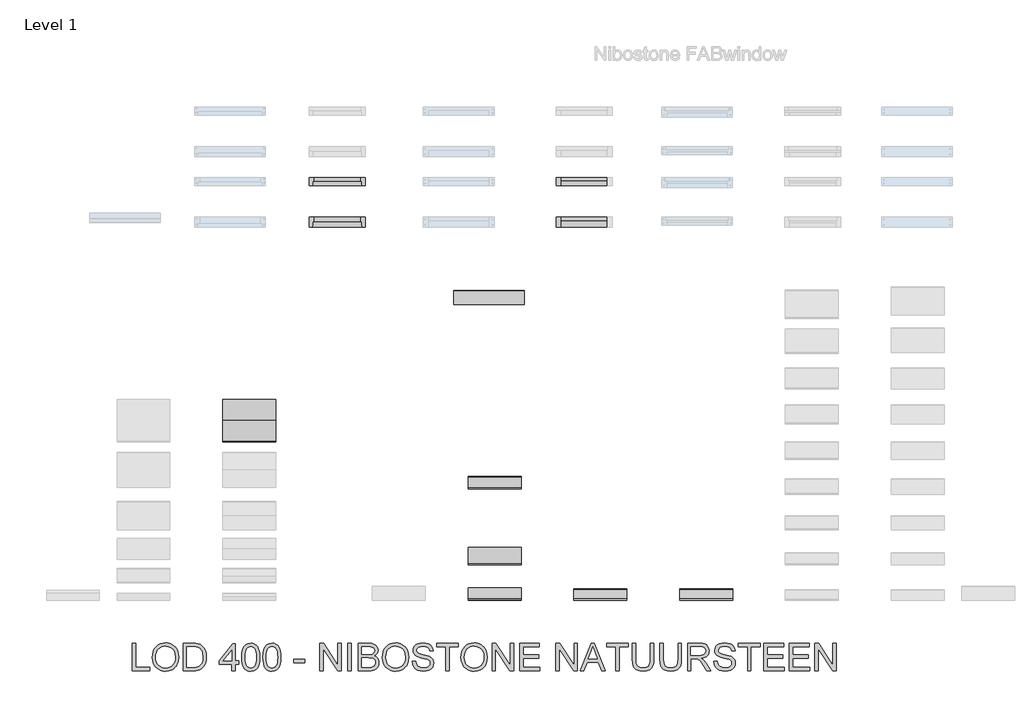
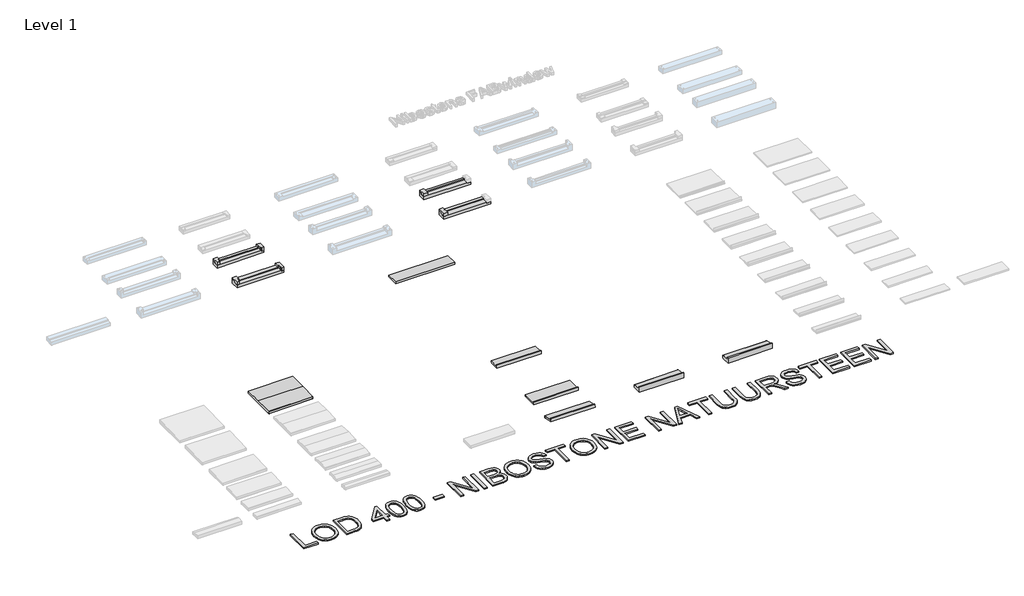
# One storey, part 2 of 4: 18 proxies.
"""IFC4 building model written with IfcOpenShell, lengths in millimetres."""

from ifc_helpers import new_model, si_unit, origin, origin_with_axes, place, context, project, spatial, polyline, outline, extrude, faceted_brep, transform, mapped, element, save
from components import proxy_160x90_mm_a9168e1c, proxy_175_mm_b3279f06, proxy_250_mm_d05ddaf7, proxy_600_mm_a40602a3, std_403fbab1, std_eb05143a, std_f690763c

model = new_model("IFC4")

# Units and contexts
model_context = context("Model", 3, world=origin())
ifc_project = project(units=[si_unit("LENGTHUNIT", "METRE", prefix="MILLI")], contexts=[model_context])

# Site, building, storey
site = spatial("IfcSite", under=ifc_project)
building = spatial("IfcBuilding", under=site)
storey = spatial("IfcBuildingStorey", under=building, Name="Level 1", Elevation=0.0)

# Proxies
placement = place(None, origin())
proxy_160x90_mm_shape = proxy_160x90_mm_a9168e1c(model_context)
element("IfcBuildingElementProxy", 1, Name="400_35_NS_raamdorpel_160x90 : 160x90 mm", ObjectType="400_35_NS_raamdorpel_160x90 : 160x90 mm", at=placement, inside=storey, context=model_context, shape_type="MappedRepresentation", body=[
    mapped(proxy_160x90_mm_shape, transform((13878.8137943, 10001.8708366, 0.0), x_axis=(1.0, 0.0, 0.0), y_axis=(0.0, 1.0, 0.0), z_axis=(0.0, 0.0, 1.0))),
])
proxy_175_mm_shape = proxy_175_mm_b3279f06(model_context)
element("IfcBuildingElementProxy", 2, Name="400_35_NS_raamdorpel_natuursteen_klik : 175 mm", ObjectType="400_35_NS_raamdorpel_natuursteen_klik : 175 mm", at=placement, inside=storey, context=model_context, shape_type="MappedRepresentation", body=[
    mapped(proxy_175_mm_shape, transform((12378.8137943, 10001.8708366, 0.0), x_axis=(1.0, 0.0, 0.0), y_axis=(0.0, 1.0, 0.0), z_axis=(0.0, 0.0, 1.0))),
])
proxy_250_mm_shape = proxy_250_mm_d05ddaf7(model_context)
element("IfcBuildingElementProxy", 3, Name="400_35_NS_raamdorpel_natuursteen_klik : 250 mm", ObjectType="400_35_NS_raamdorpel_natuursteen_klik : 250 mm", at=placement, inside=storey, context=model_context, shape_type="MappedRepresentation", body=[
    mapped(proxy_250_mm_shape, transform((12378.8137943, 10501.8708366, 0.0), x_axis=(1.0, 0.0, 0.0), y_axis=(0.0, 1.0, 0.0), z_axis=(0.0, 0.0, 1.0))),
])
element("IfcBuildingElementProxy", 4, Name="400", ObjectType="400", at=placement, inside=storey, context=model_context, shape_type="SweptSolid", body=[
    extrude(outline(polyline([(7242.8484848, 9000.0), (7242.8484848, 9391.7575758), (7291.8181818, 9391.7575758), (7291.8181818, 9048.969697), (7487.6969697, 9048.969697), (7487.6969697, 9000.0), (7242.8484848, 9000.0)])), origin_with_axes(), (0.0, 0.0, 1.0), 20.0),
    extrude(outline(polyline([(7524.4242424, 9190.7140152), (7527.6880919, 9236.6649503), (7537.4796402, 9277.3435133), (7553.7988873, 9312.7497041), (7576.6458333, 9342.8835227), (7604.6515743, 9366.9439512), (7636.4472064, 9384.1299716), (7672.0327296, 9394.4415838), (7711.4081439, 9397.8787879), (7737.764027, 9396.2647964), (7762.7928504, 9391.422822), (7786.4946141, 9383.3528646), (7808.8693182, 9372.0549242), (7829.2892992, 9357.8697325), (7847.1268939, 9341.1380208), (7862.3821023, 9321.8597893), (7875.0549242, 9300.0350379), (7885.0138494, 9276.1599195), (7892.1273674, 9250.7305871), (7897.8181818, 9195.2092803), (7891.8284801, 9138.946733), (7884.341353, 9113.1647135), (7873.859375, 9088.9488636), (7860.6306226, 9066.9388021), (7844.9031723, 9047.7741477), (7826.6770241, 9031.4549006), (7805.952178, 9017.9810606), (7760.2702415, 8999.9043561), (7711.1212121, 8993.8787879), (7684.3050426, 8995.5435902), (7658.9474432, 9000.5379972), (7635.0484138, 9008.8620088), (7612.6079545, 9020.515625), (7592.2118845, 9035.047526), (7574.4460227, 9052.006392), (7559.3103693, 9071.392223), (7546.8049242, 9093.2050189), (7530.0194129, 9140.6085464), (7524.4242424, 9190.7140152)]), holes=[polyline([(7573.3939394, 9190.2357955), (7575.8418265, 9157.7706558), (7583.1854877, 9128.9519413), (7595.4249231, 9103.779652), (7612.5601326, 9082.2537879), (7633.3895893, 9065.0139678), (7656.7117661, 9052.6998106), (7682.5266631, 9045.3113163), (7710.8342803, 9042.8484848), (7739.6260949, 9045.3352273), (7765.745857, 9052.7954545), (7789.1935665, 9065.2291667), (7809.9692235, 9082.6363636), (7826.9789003, 9104.6165365), (7839.1286695, 9130.7691761), (7846.418531, 9161.0942827), (7848.8484848, 9195.5918561), (7844.6879735, 9238.9424716), (7832.2064394, 9276.4109848), (7811.7266809, 9307.0529119), (7783.5714962, 9329.9237689), (7749.6059422, 9344.1627604), (7711.6950758, 9348.9090909), (7684.3707978, 9346.622603), (7659.0191761, 9339.7631392), (7635.6402107, 9328.3306996), (7614.2339015, 9312.3252841), (7596.3664181, 9290.9757635), (7583.6039299, 9263.5110085), (7575.946437, 9229.9310192), (7573.3939394, 9190.2357955)])]), origin_with_axes(), (0.0, 0.0, 1.0), 20.0),
    extrude(outline(polyline([(7965.1515152, 9000.0), (7965.1515152, 9391.7575758), (8100.2964015, 9391.7575758), (8140.6820549, 9390.3468277), (8170.2121212, 9386.1145833), (8201.4398674, 9375.2350852), (8227.7897727, 9358.0909091), (8254.8809186, 9328.25), (8274.1770833, 9291.1401515), (8285.726089, 9247.4786932), (8289.5757576, 9197.9829545), (8286.9694602, 9155.9354877), (8279.1505682, 9118.9332386), (8267.2428977, 9087.4305161), (8252.3702652, 9061.8816288), (8235.25, 9041.7127131), (8216.5994318, 9026.3499053), (8195.1871449, 9014.956321), (8169.7817235, 9006.6950758), (8140.3353456, 9001.6737689), (8106.8001894, 9000.0), (7965.1515152, 9000.0)]), holes=[polyline([(8014.1212121, 9048.969697), (8100.7746212, 9048.969697), (8136.6171875, 9050.7391098), (8163.8039773, 9056.0473485), (8184.3196023, 9064.5835701), (8200.1486742, 9076.0369318), (8217.16134, 9097.2340199), (8229.9417614, 9124.671875), (8237.9399858, 9158.4700521), (8240.6060606, 9198.7481061), (8235.3815104, 9252.1174242), (8228.8508227, 9273.5655777), (8219.7078598, 9291.5227273), (8196.550071, 9318.5899621), (8168.8731061, 9334.9450758), (8140.7059659, 9340.827178), (8099.4356061, 9342.7878788), (8014.1212121, 9342.7878788), (8014.1212121, 9048.969697)])]), origin_with_axes(), (0.0, 0.0, 1.0), 20.0),
    extrude(outline(polyline([(8650.7272727, 9000.0), (8650.7272727, 9091.8181818), (8473.2121212, 9091.8181818), (8473.2121212, 9140.7878788), (8662.969697, 9385.6363636), (8699.6969697, 9385.6363636), (8699.6969697, 9140.7878788), (8748.6666667, 9140.7878788), (8748.6666667, 9091.8181818), (8699.6969697, 9091.8181818), (8699.6969697, 9000.0), (8650.7272727, 9000.0)]), holes=[polyline([(8650.7272727, 9140.7878788), (8650.7272727, 9292.0965909), (8533.467803, 9140.7878788), (8650.7272727, 9140.7878788)])]), origin_with_axes(), (0.0, 0.0, 1.0), 20.0),
    extrude(outline(polyline([(8791.5151515, 9192.7225379), (8795.1137547, 9255.4290956), (8805.9095644, 9305.4389205), (8823.7949811, 9343.5171638), (8835.3559422, 9358.3688743), (8848.6624053, 9370.4289773), (8863.7592034, 9379.7602391), (8880.6911695, 9386.4254261), (8920.0606061, 9391.7575758), (8950.2362689, 9388.6013258), (8977.2556818, 9379.1325758), (8999.8515625, 9363.721946), (9016.7566288, 9342.7400568), (9029.5250947, 9316.3662405), (9039.7111742, 9284.7798295), (9046.382339, 9244.6691525), (9048.6060606, 9192.7225379), (9045.0433239, 9130.3746449), (9034.3551136, 9080.484375), (9016.5772964, 9042.3702652), (9005.0432351, 9027.4737216), (8991.7457386, 9015.3508523), (8976.6310073, 9005.9568241), (8959.6452415, 8999.246804), (8920.0606061, 8993.8787879), (8893.0890152, 8996.2101089), (8869.1780303, 9003.204072), (8848.3276515, 9014.8606771), (8830.5378788, 9031.1799242), (8813.4654356, 9060.6801018), (8801.2708333, 9097.4372633), (8793.954072, 9141.4514086), (8791.5151515, 9192.7225379)]), holes=[polyline([(8840.4848485, 9192.8181818), (8841.9195076, 9150.2476622), (8846.2234848, 9115.7889441), (8853.3967803, 9089.4420277), (8863.4393939, 9071.2069129), (8875.5861742, 9058.8001006), (8889.0719697, 9049.9380919), (8903.8967803, 9044.6208866), (8920.0606061, 9042.8484848), (8936.2244318, 9044.6268643), (8951.0492424, 9049.9620028), (8964.5350379, 9058.8539003), (8976.6818182, 9071.3025568), (8986.7244318, 9089.5675604), (8993.8977273, 9115.9084991), (8998.2017045, 9150.3253729), (8999.6363636, 9192.8181818), (8998.2495265, 9234.2618963), (8994.0890152, 9268.1138731), (8987.1548295, 9294.3741122), (8977.4469697, 9313.0426136), (8965.5034328, 9326.0561671), (8951.8622159, 9335.3515625), (8936.5233191, 9340.9287997), (8919.4867424, 9342.7878788), (8903.4066051, 9341.1499763), (8888.8328598, 9336.2362689), (8875.7655066, 9328.0467566), (8864.2045455, 9316.5814394), (8853.827178, 9296.2571023), (8846.4147727, 9268.8551136), (8841.9673295, 9234.3754735), (8840.4848485, 9192.8181818)])]), origin_with_axes(), (0.0, 0.0, 1.0), 20.0),
    extrude(outline(polyline([(9091.4545455, 9192.7225379), (9095.0531487, 9255.4290956), (9105.8489583, 9305.4389205), (9123.734375, 9343.5171638), (9135.2953362, 9358.3688743), (9148.6017992, 9370.4289773), (9163.6985973, 9379.7602391), (9180.6305634, 9386.4254261), (9220.0, 9391.7575758), (9250.1756629, 9388.6013258), (9277.1950758, 9379.1325758), (9299.7909564, 9363.721946), (9316.6960227, 9342.7400568), (9329.4644886, 9316.3662405), (9339.6505682, 9284.7798295), (9346.321733, 9244.6691525), (9348.5454545, 9192.7225379), (9344.9827178, 9130.3746449), (9334.2945076, 9080.484375), (9316.5166903, 9042.3702652), (9304.982629, 9027.4737216), (9291.6851326, 9015.3508523), (9276.5704013, 9005.9568241), (9259.5846354, 8999.246804), (9220.0, 8993.8787879), (9193.0284091, 8996.2101089), (9169.1174242, 9003.204072), (9148.2670455, 9014.8606771), (9130.4772727, 9031.1799242), (9113.4048295, 9060.6801018), (9101.2102273, 9097.4372633), (9093.8934659, 9141.4514086), (9091.4545455, 9192.7225379)]), holes=[polyline([(9140.4242424, 9192.8181818), (9141.8589015, 9150.2476622), (9146.1628788, 9115.7889441), (9153.3361742, 9089.4420277), (9163.3787879, 9071.2069129), (9175.5255682, 9058.8001006), (9189.0113636, 9049.9380919), (9203.8361742, 9044.6208866), (9220.0, 9042.8484848), (9236.1638258, 9044.6268643), (9250.9886364, 9049.9620028), (9264.4744318, 9058.8539003), (9276.6212121, 9071.3025568), (9286.6638258, 9089.5675604), (9293.8371212, 9115.9084991), (9298.1410985, 9150.3253729), (9299.5757576, 9192.8181818), (9298.1889205, 9234.2618963), (9294.0284091, 9268.1138731), (9287.0942235, 9294.3741122), (9277.3863636, 9313.0426136), (9265.4428267, 9326.0561671), (9251.8016098, 9335.3515625), (9236.4627131, 9340.9287997), (9219.4261364, 9342.7878788), (9203.3459991, 9341.1499763), (9188.7722538, 9336.2362689), (9175.7049006, 9328.0467566), (9164.1439394, 9316.5814394), (9153.766572, 9296.2571023), (9146.3541667, 9268.8551136), (9141.9067235, 9234.3754735), (9140.4242424, 9192.8181818)])]), origin_with_axes(), (0.0, 0.0, 1.0), 20.0),
    extrude(outline(polyline([(9532.1818182, 9116.3030303), (9532.1818182, 9165.2727273), (9685.2121212, 9165.2727273), (9685.2121212, 9116.3030303), (9532.1818182, 9116.3030303)])), origin_with_axes(), (0.0, 0.0, 1.0), 20.0),
    extrude(outline(polyline([(9899.4545455, 9000.0), (9899.4545455, 9391.7575758), (9951.8674242, 9391.7575758), (10156.5454545, 9081.3929924), (10156.5454545, 9391.7575758), (10205.5151515, 9391.7575758), (10205.5151515, 9000.0), (10153.1022727, 9000.0), (9948.4242424, 9310.4602273), (9948.4242424, 9000.0), (9899.4545455, 9000.0)])), origin_with_axes(), (0.0, 0.0, 1.0), 20.0),
    extrude(outline(polyline([(10297.3333333, 9000.0), (10297.3333333, 9391.7575758), (10346.3030303, 9391.7575758), (10346.3030303, 9000.0), (10297.3333333, 9000.0)])), origin_with_axes(), (0.0, 0.0, 1.0), 20.0),
    extrude(outline(polyline([(10444.2424242, 9000.0), (10444.2424242, 9391.7575758), (10593.7339015, 9391.7575758), (10634.84884, 9388.8763021), (10666.9493371, 9380.2324811), (10691.5537405, 9365.6109138), (10710.1803977, 9344.7964015), (10721.9087358, 9320.311553), (10725.8181818, 9294.6789773), (10722.5304214, 9271.0907907), (10712.6671402, 9248.9133523), (10696.1566051, 9229.5095881), (10672.9270833, 9214.2424242), (10700.6757813, 9199.7523674), (10721.1794508, 9177.7064394), (10733.8403172, 9149.5632102), (10738.0606061, 9116.78125), (10735.1793324, 9089.4629498), (10726.5355114, 9064.1292614), (10713.635535, 9042.585464), (10697.9857955, 9026.6368371), (10678.8211411, 9015.0878314), (10655.3764205, 9006.7428977), (10626.886482, 9001.6857244), (10592.5861742, 9000.0), (10444.2424242, 9000.0)]), holes=[polyline([(10493.2121212, 9232.6060606), (10582.6392045, 9232.6060606), (10634.8607955, 9236.8143939), (10653.1407434, 9244.0713778), (10666.2798295, 9254.9389205), (10674.206321, 9269.2496449), (10676.8484848, 9286.8361742), (10674.3856534, 9303.9086174), (10666.9971591, 9318.78125), (10655.0177557, 9330.3900331), (10638.782197, 9337.670928), (10613.8669508, 9341.5086411), (10575.8484848, 9342.7878788), (10493.2121212, 9342.7878788), (10493.2121212, 9232.6060606)]), polyline([(10493.2121212, 9048.969697), (10593.6382576, 9048.969697), (10629.9829545, 9050.8825758), (10660.7324811, 9061.546875), (10672.0184659, 9070.7406487), (10681.1046402, 9083.3058712), (10687.0943419, 9098.6806345), (10689.0909091, 9116.3030303), (10686.7476326, 9136.7708333), (10679.717803, 9154.3693182), (10667.4395123, 9168.13009), (10649.3508523, 9177.0847538), (10623.730232, 9181.9984612), (10588.8560606, 9183.6363636), (10493.2121212, 9183.6363636), (10493.2121212, 9048.969697)])]), origin_with_axes(), (0.0, 0.0, 1.0), 20.0),
    extrude(outline(polyline([(10787.030303, 9190.7140152), (10790.2941525, 9236.6649503), (10800.0857008, 9277.3435133), (10816.4049479, 9312.7497041), (10839.2518939, 9342.8835227), (10867.2576349, 9366.9439512), (10899.053267, 9384.1299716), (10934.6387902, 9394.4415838), (10974.0142045, 9397.8787879), (11000.3700876, 9396.2647964), (11025.398911, 9391.422822), (11049.1006747, 9383.3528646), (11071.4753788, 9372.0549242), (11091.8953598, 9357.8697325), (11109.7329545, 9341.1380208), (11124.9881629, 9321.8597893), (11137.6609848, 9300.0350379), (11147.61991, 9276.1599195), (11154.733428, 9250.7305871), (11160.4242424, 9195.2092803), (11154.4345407, 9138.946733), (11146.9474136, 9113.1647135), (11136.4654356, 9088.9488636), (11123.2366832, 9066.9388021), (11107.509233, 9047.7741477), (11089.2830848, 9031.4549006), (11068.5582386, 9017.9810606), (11022.8763021, 8999.9043561), (10973.7272727, 8993.8787879), (10946.9111032, 8995.5435902), (10921.5535038, 9000.5379972), (10897.6544744, 9008.8620088), (10875.2140152, 9020.515625), (10854.8179451, 9035.047526), (10837.0520833, 9052.006392), (10821.9164299, 9071.392223), (10809.4109848, 9093.2050189), (10792.6254735, 9140.6085464), (10787.030303, 9190.7140152)]), holes=[polyline([(10836.0, 9190.2357955), (10838.4478871, 9157.7706558), (10845.7915483, 9128.9519413), (10858.0309837, 9103.779652), (10875.1661932, 9082.2537879), (10895.9956499, 9065.0139678), (10919.3178267, 9052.6998106), (10945.1327237, 9045.3113163), (10973.4403409, 9042.8484848), (11002.2321555, 9045.3352273), (11028.3519176, 9052.7954545), (11051.7996271, 9065.2291667), (11072.5752841, 9082.6363636), (11089.5849609, 9104.6165365), (11101.7347301, 9130.7691761), (11109.0245916, 9161.0942827), (11111.4545455, 9195.5918561), (11107.2940341, 9238.9424716), (11094.8125, 9276.4109848), (11074.3327415, 9307.0529119), (11046.1775568, 9329.9237689), (11012.2120028, 9344.1627604), (10974.3011364, 9348.9090909), (10946.9768584, 9346.622603), (10921.6252367, 9339.7631392), (10898.2462713, 9328.3306996), (10876.8399621, 9312.3252841), (10858.9724787, 9290.9757635), (10846.2099905, 9263.5110085), (10838.5524976, 9229.9310192), (10836.0, 9190.2357955)])]), origin_with_axes(), (0.0, 0.0, 1.0), 20.0),
    extrude(outline(polyline([(11209.3939394, 9134.6666667), (11258.3636364, 9134.6666667), (11263.9827178, 9107.4918324), (11274.1448864, 9085.6491477), (11289.9978693, 9068.3136837), (11312.6893939, 9054.6605114), (11340.4261364, 9045.8014915), (11371.4147727, 9042.8484848), (11398.6972064, 9045.0841619), (11422.5842803, 9051.7911932), (11441.9402225, 9062.4076705), (11455.6292614, 9076.3716856), (11463.7709517, 9092.4040009), (11466.4848485, 9109.2253788), (11464.4524148, 9125.6163589), (11458.3551136, 9139.7836174), (11445.9692235, 9151.8706203), (11425.0710227, 9162.0208333), (11353.7684659, 9180.7192235), (11306.9627131, 9193.0931581), (11277.0142045, 9204.8693182), (11252.6369555, 9221.3439867), (11235.3612689, 9241.3096591), (11225.06759, 9264.3359375), (11221.6363636, 9289.9924242), (11225.8805634, 9318.6736506), (11238.6131629, 9345.4180871), (11259.4994081, 9368.0857008), (11288.2045455, 9384.5364583), (11322.6602746, 9394.5432055), (11360.7982955, 9397.8787879), (11402.1164773, 9394.3877841), (11438.2698864, 9383.9147727), (11467.9673295, 9366.6749527), (11489.9176136, 9342.8835227), (11503.8098958, 9314.022964), (11509.3333333, 9281.5757576), (11460.3636364, 9281.5757576), (11451.3731061, 9310.7949811), (11432.6268939, 9331.8844697), (11403.3359375, 9344.6529356), (11362.7111742, 9348.9090909), (11321.1299716, 9344.7007576), (11305.2351444, 9339.4403409), (11292.6041667, 9332.0757576), (11276.1055871, 9313.4969223), (11270.6060606, 9291.4270833), (11274.5035511, 9272.6091383), (11286.1960227, 9257.4734848), (11313.8371212, 9243.9398674), (11366.1543561, 9230.1193182), (11420.1453598, 9216.9921875), (11452.8077652, 9205.5388258), (11480.72384, 9187.772964), (11500.1993371, 9165.8465909), (11511.6407434, 9139.9988163), (11515.4545455, 9110.46875), (11511.0668797, 9080.2811316), (11497.9038826, 9051.8868371), (11476.5035511, 9027.4498106), (11447.4038826, 9009.1339962), (11412.4101563, 8997.69259), (11373.3276515, 8993.8787879), (11325.3502604, 8997.9914773), (11285.8612689, 9010.3295455), (11254.4063684, 9030.9408144), (11230.53125, 9059.8731061), (11215.2043087, 9095.1178977), (11209.3939394, 9134.6666667)])), origin_with_axes(), (0.0, 0.0, 1.0), 20.0),
    extrude(outline(polyline([(11686.8484848, 9000.0), (11686.8484848, 9342.7878788), (11558.3030303, 9342.7878788), (11558.3030303, 9391.7575758), (11864.3636364, 9391.7575758), (11864.3636364, 9342.7878788), (11735.8181818, 9342.7878788), (11735.8181818, 9000.0), (11686.8484848, 9000.0)])), origin_with_axes(), (0.0, 0.0, 1.0), 20.0),
    extrude(outline(polyline([(11901.0909091, 9190.7140152), (11904.3547585, 9236.6649503), (11914.1463068, 9277.3435133), (11930.465554, 9312.7497041), (11953.3125, 9342.8835227), (11981.318241, 9366.9439512), (12013.1138731, 9384.1299716), (12048.6993963, 9394.4415838), (12088.0748106, 9397.8787879), (12114.4306937, 9396.2647964), (12139.459517, 9391.422822), (12163.1612808, 9383.3528646), (12185.5359848, 9372.0549242), (12205.9559659, 9357.8697325), (12223.7935606, 9341.1380208), (12239.0487689, 9321.8597893), (12251.7215909, 9300.0350379), (12261.6805161, 9276.1599195), (12268.7940341, 9250.7305871), (12274.4848485, 9195.2092803), (12268.4951468, 9138.946733), (12261.0080196, 9113.1647135), (12250.5260417, 9088.9488636), (12237.2972893, 9066.9388021), (12221.569839, 9047.7741477), (12203.3436908, 9031.4549006), (12182.6188447, 9017.9810606), (12136.9369081, 8999.9043561), (12087.7878788, 8993.8787879), (12060.9717093, 8995.5435902), (12035.6141098, 9000.5379972), (12011.7150805, 9008.8620088), (11989.2746212, 9020.515625), (11968.8785511, 9035.047526), (11951.1126894, 9052.006392), (11935.977036, 9071.392223), (11923.4715909, 9093.2050189), (11906.6860795, 9140.6085464), (11901.0909091, 9190.7140152)]), holes=[polyline([(11950.0606061, 9190.2357955), (11952.5084931, 9157.7706558), (11959.8521544, 9128.9519413), (11972.0915897, 9103.779652), (11989.2267992, 9082.2537879), (12010.0562559, 9065.0139678), (12033.3784328, 9052.6998106), (12059.1933298, 9045.3113163), (12087.500947, 9042.8484848), (12116.2927616, 9045.3352273), (12142.4125237, 9052.7954545), (12165.8602332, 9065.2291667), (12186.6358902, 9082.6363636), (12203.645567, 9104.6165365), (12215.7953362, 9130.7691761), (12223.0851977, 9161.0942827), (12225.5151515, 9195.5918561), (12221.3546402, 9238.9424716), (12208.8731061, 9276.4109848), (12188.3933475, 9307.0529119), (12160.2381629, 9329.9237689), (12126.2726089, 9344.1627604), (12088.3617424, 9348.9090909), (12061.0374645, 9346.622603), (12035.6858428, 9339.7631392), (12012.3068774, 9328.3306996), (11990.9005682, 9312.3252841), (11973.0330848, 9290.9757635), (11960.2705966, 9263.5110085), (11952.6131037, 9229.9310192), (11950.0606061, 9190.2357955)])]), origin_with_axes(), (0.0, 0.0, 1.0), 20.0),
    extrude(outline(polyline([(12341.8181818, 9000.0), (12341.8181818, 9391.7575758), (12394.2310606, 9391.7575758), (12598.9090909, 9081.3929924), (12598.9090909, 9391.7575758), (12647.8787879, 9391.7575758), (12647.8787879, 9000.0), (12595.4659091, 9000.0), (12390.7878788, 9310.4602273), (12390.7878788, 9000.0), (12341.8181818, 9000.0)])), origin_with_axes(), (0.0, 0.0, 1.0), 20.0),
    extrude(outline(polyline([(12733.5757576, 9000.0), (12733.5757576, 9391.7575758), (13015.1515152, 9391.7575758), (13015.1515152, 9342.7878788), (12782.5454545, 9342.7878788), (12782.5454545, 9226.4848485), (13002.9090909, 9226.4848485), (13002.9090909, 9177.5151515), (12782.5454545, 9177.5151515), (12782.5454545, 9048.969697), (13021.2727273, 9048.969697), (13021.2727273, 9000.0), (12733.5757576, 9000.0)])), origin_with_axes(), (0.0, 0.0, 1.0), 20.0),
    extrude(outline(polyline([(13247.7575758, 9000.0), (13247.7575758, 9391.7575758), (13300.1704545, 9391.7575758), (13504.8484848, 9081.3929924), (13504.8484848, 9391.7575758), (13553.8181818, 9391.7575758), (13553.8181818, 9000.0), (13501.405303, 9000.0), (13296.7272727, 9310.4602273), (13296.7272727, 9000.0), (13247.7575758, 9000.0)])), origin_with_axes(), (0.0, 0.0, 1.0), 20.0),
    extrude(outline(polyline([(13593.8929924, 9000.0), (13750.2708333, 9391.7575758), (13791.9715909, 9391.7575758), (13948.3494318, 9000.0), (13896.6060606, 9000.0), (13851.749053, 9122.4242424), (13690.3977273, 9122.4242424), (13645.6363636, 9000.0), (13593.8929924, 9000.0)]), holes=[polyline([(13708.3787879, 9171.3939394), (13833.8636364, 9171.3939394), (13798.5710227, 9267.7073864), (13771.1212121, 9342.7878788), (13746.7320076, 9276.124053), (13708.3787879, 9171.3939394)])]), origin_with_axes(), (0.0, 0.0, 1.0), 20.0),
    extrude(outline(polyline([(14098.6060606, 9000.0), (14098.6060606, 9342.7878788), (13970.0606061, 9342.7878788), (13970.0606061, 9391.7575758), (14276.1212121, 9391.7575758), (14276.1212121, 9342.7878788), (14147.5757576, 9342.7878788), (14147.5757576, 9000.0), (14098.6060606, 9000.0)])), origin_with_axes(), (0.0, 0.0, 1.0), 20.0),
    extrude(outline(polyline([(14588.3030303, 9391.7575758), (14637.2727273, 9391.7575758), (14637.2727273, 9165.750947), (14633.9491004, 9112.823982), (14623.9782197, 9072.0677083), (14605.3515625, 9040.6247633), (14576.0606061, 9015.6377841), (14557.3980824, 9006.1182232), (14536.0336174, 8999.3185369), (14485.1988636, 8993.8787879), (14435.4759706, 8998.6131629), (14395.7239583, 9012.8162879), (14379.5840436, 9023.3460878), (14365.9308712, 9035.9979877), (14354.7644413, 9050.7719875), (14346.0847538, 9067.6680871), (14334.9302794, 9110.1459517), (14331.2121212, 9165.750947), (14331.2121212, 9391.7575758), (14380.1818182, 9391.7575758), (14380.1818182, 9167.4725379), (14382.5968277, 9123.4643703), (14389.8418561, 9092.8224432), (14402.9689867, 9071.6014441), (14423.030303, 9055.8560606), (14449.1889205, 9046.1003788), (14480.6079545, 9042.8484848), (14507.5974787, 9044.4564986), (14530.414536, 9049.2805398), (14549.0591264, 9057.3206084), (14563.53125, 9068.5767045), (14574.3689039, 9084.4057765), (14582.1100852, 9106.1647727), (14586.754794, 9133.8536932), (14588.3030303, 9167.4725379), (14588.3030303, 9391.7575758)])), origin_with_axes(), (0.0, 0.0, 1.0), 20.0),
    extrude(outline(polyline([(14980.0606061, 9391.7575758), (15029.030303, 9391.7575758), (15029.030303, 9165.750947), (15025.7066761, 9112.823982), (15015.7357955, 9072.0677083), (14997.1091383, 9040.6247633), (14967.8181818, 9015.6377841), (14949.1556581, 9006.1182232), (14927.7911932, 8999.3185369), (14876.9564394, 8993.8787879), (14827.2335464, 8998.6131629), (14787.4815341, 9012.8162879), (14771.3416193, 9023.3460878), (14757.688447, 9035.9979877), (14746.522017, 9050.7719875), (14737.8423295, 9067.6680871), (14726.6878551, 9110.1459517), (14722.969697, 9165.750947), (14722.969697, 9391.7575758), (14771.9393939, 9391.7575758), (14771.9393939, 9167.4725379), (14774.3544034, 9123.4643703), (14781.5994318, 9092.8224432), (14794.7265625, 9071.6014441), (14814.7878788, 9055.8560606), (14840.9464962, 9046.1003788), (14872.3655303, 9042.8484848), (14899.3550545, 9044.4564986), (14922.1721117, 9049.2805398), (14940.8167022, 9057.3206084), (14955.2888258, 9068.5767045), (14966.1264796, 9084.4057765), (14973.867661, 9106.1647727), (14978.5123698, 9133.8536932), (14980.0606061, 9167.4725379), (14980.0606061, 9391.7575758)])), origin_with_axes(), (0.0, 0.0, 1.0), 20.0),
    extrude(outline(polyline([(15114.7272727, 9000.0), (15114.7272727, 9391.7575758), (15283.5388258, 9391.7575758), (15328.9099195, 9389.1154119), (15361.9190341, 9381.1889205), (15386.0452178, 9366.5553977), (15404.7675189, 9343.7921402), (15416.7827888, 9315.5652225), (15420.7878788, 9284.5407197), (15419.1290542, 9264.4196259), (15414.1525805, 9245.9483902), (15405.8584576, 9229.1270123), (15394.2466856, 9213.9554924), (15379.1678208, 9200.9180279), (15360.4724195, 9190.4988163), (15338.1604818, 9182.6978575), (15312.2320076, 9177.5151515), (15340.0643939, 9156.5691288), (15379.7566288, 9106.1647727), (15445.0814394, 9000.0), (15388.1732955, 9000.0), (15337.1950758, 9081.2017045), (15300.3721591, 9134.9535985), (15286.6831203, 9150.6272491), (15274.5004735, 9160.3470644), (15251.2111742, 9169.6723485), (15222.8049242, 9171.3939394), (15163.6969697, 9171.3939394), (15163.6969697, 9000.0), (15114.7272727, 9000.0)]), holes=[polyline([(15163.6969697, 9220.3636364), (15273.3049242, 9220.3636364), (15304.7837358, 9222.0971828), (15329.2088068, 9227.297822), (15347.5963542, 9236.3122633), (15360.9625947, 9249.4872159), (15369.104285, 9265.4238873), (15371.8181818, 9282.7234848), (15366.6414536, 9306.6105587), (15351.1112689, 9325.8589015), (15339.2544093, 9333.2653291), (15324.3907434, 9338.5556345), (15285.6429924, 9342.7878788), (15163.6969697, 9342.7878788), (15163.6969697, 9220.3636364)])]), origin_with_axes(), (0.0, 0.0, 1.0), 20.0),
    extrude(outline(polyline([(15488.1212121, 9134.6666667), (15537.0909091, 9134.6666667), (15542.7099905, 9107.4918324), (15552.8721591, 9085.6491477), (15568.725142, 9068.3136837), (15591.4166667, 9054.6605114), (15619.1534091, 9045.8014915), (15650.1420455, 9042.8484848), (15677.4244792, 9045.0841619), (15701.311553, 9051.7911932), (15720.6674953, 9062.4076705), (15734.3565341, 9076.3716856), (15742.4982244, 9092.4040009), (15745.2121212, 9109.2253788), (15743.1796875, 9125.6163589), (15737.0823864, 9139.7836174), (15724.6964962, 9151.8706203), (15703.7982955, 9162.0208333), (15632.4957386, 9180.7192235), (15585.6899858, 9193.0931581), (15555.7414773, 9204.8693182), (15531.3642282, 9221.3439867), (15514.0885417, 9241.3096591), (15503.7948627, 9264.3359375), (15500.3636364, 9289.9924242), (15504.6078362, 9318.6736506), (15517.3404356, 9345.4180871), (15538.2266809, 9368.0857008), (15566.9318182, 9384.5364583), (15601.3875473, 9394.5432055), (15639.5255682, 9397.8787879), (15680.84375, 9394.3877841), (15716.9971591, 9383.9147727), (15746.6946023, 9366.6749527), (15768.6448864, 9342.8835227), (15782.5371686, 9314.022964), (15788.0606061, 9281.5757576), (15739.0909091, 9281.5757576), (15730.1003788, 9310.7949811), (15711.3541667, 9331.8844697), (15682.0632102, 9344.6529356), (15641.438447, 9348.9090909), (15599.8572443, 9344.7007576), (15583.9624171, 9339.4403409), (15571.3314394, 9332.0757576), (15554.8328598, 9313.4969223), (15549.3333333, 9291.4270833), (15553.2308239, 9272.6091383), (15564.9232955, 9257.4734848), (15592.5643939, 9243.9398674), (15644.8816288, 9230.1193182), (15698.8726326, 9216.9921875), (15731.5350379, 9205.5388258), (15759.4511127, 9187.772964), (15778.9266098, 9165.8465909), (15790.3680161, 9139.9988163), (15794.1818182, 9110.46875), (15789.7941525, 9080.2811316), (15776.6311553, 9051.8868371), (15755.2308239, 9027.4498106), (15726.1311553, 9009.1339962), (15691.137429, 8997.69259), (15652.0549242, 8993.8787879), (15604.0775331, 8997.9914773), (15564.5885417, 9010.3295455), (15533.1336411, 9030.9408144), (15509.2585227, 9059.8731061), (15493.9315814, 9095.1178977), (15488.1212121, 9134.6666667)])), origin_with_axes(), (0.0, 0.0, 1.0), 20.0),
    extrude(outline(polyline([(15965.5757576, 9000.0), (15965.5757576, 9342.7878788), (15837.030303, 9342.7878788), (15837.030303, 9391.7575758), (16143.0909091, 9391.7575758), (16143.0909091, 9342.7878788), (16014.5454545, 9342.7878788), (16014.5454545, 9000.0), (15965.5757576, 9000.0)])), origin_with_axes(), (0.0, 0.0, 1.0), 20.0),
    extrude(outline(polyline([(16198.1818182, 9000.0), (16198.1818182, 9391.7575758), (16479.7575758, 9391.7575758), (16479.7575758, 9342.7878788), (16247.1515152, 9342.7878788), (16247.1515152, 9226.4848485), (16467.5151515, 9226.4848485), (16467.5151515, 9177.5151515), (16247.1515152, 9177.5151515), (16247.1515152, 9048.969697), (16485.8787879, 9048.969697), (16485.8787879, 9000.0), (16198.1818182, 9000.0)])), origin_with_axes(), (0.0, 0.0, 1.0), 20.0),
    extrude(outline(polyline([(16559.3333333, 9000.0), (16559.3333333, 9391.7575758), (16840.9090909, 9391.7575758), (16840.9090909, 9342.7878788), (16608.3030303, 9342.7878788), (16608.3030303, 9226.4848485), (16828.6666667, 9226.4848485), (16828.6666667, 9177.5151515), (16608.3030303, 9177.5151515), (16608.3030303, 9048.969697), (16847.030303, 9048.969697), (16847.030303, 9000.0), (16559.3333333, 9000.0)])), origin_with_axes(), (0.0, 0.0, 1.0), 20.0),
    extrude(outline(polyline([(16920.4848485, 9000.0), (16920.4848485, 9391.7575758), (16972.8977273, 9391.7575758), (17177.5757576, 9081.3929924), (17177.5757576, 9391.7575758), (17226.5454545, 9391.7575758), (17226.5454545, 9000.0), (17174.1325758, 9000.0), (16969.4545455, 9310.4602273), (16969.4545455, 9000.0), (16920.4848485, 9000.0)])), origin_with_axes(), (0.0, 0.0, 1.0), 20.0),
])
proxy_600_mm_shape = proxy_600_mm_a40602a3(model_context)
element("IfcBuildingElementProxy", 5, Name="400_35_NS_afdekker_tweezijdig_afwaterend : 600 mm", ObjectType="400_35_NS_afdekker_tweezijdig_afwaterend : 600 mm", at=placement, inside=storey, context=model_context, shape_type="MappedRepresentation", body=[
    mapped(proxy_600_mm_shape, transform((8898.8137943, 12251.8708366, 0.0), x_axis=(1.0, 0.0, 0.0), y_axis=(0.0, 1.0, 0.0), z_axis=(0.0, 0.0, 1.0))),
])
element("IfcBuildingElementProxy", 6, Name="Nibostone : BI-51-114 VN", ObjectType="Nibostone : BI-51-114 VN", at=placement, inside=storey, context=model_context, shape_type="Brep", body=[
    faceted_brep([(13250.0, 16000.0, -26.0), (13250.0, 16000.0, 44.0), (13976.7366492, 16000.0, 44.0), (13976.7366492, 16000.0, 8.9806081), (14043.7366492, 16000.0, 8.9806081), (14043.7366492, 16000.0, -26.0), (13250.0, 15959.0, 44.0), (13250.0, 15959.0, 27.6985751), (13300.0, 15959.0, 27.6985751), (13976.7366492, 15959.0, 27.6985751), (13976.7366492, 15959.0, 44.0), (13317.0, 15959.0, 44.0), (13300.0, 15959.0, 44.0), (14043.7366492, 15886.0, -26.0), (13250.0, 15886.0, -26.0), (14043.7366492, 15964.8452752, 8.9806081), (14043.7366492, 15886.0, 8.9806081), (13976.7366492, 15949.0, 8.9806081), (13976.7366492, 15886.0, 8.9806081), (13976.7366492, 15965.0, 8.9806081), (13976.7366492, 15959.0, 8.9806081), (13993.7366492, 15959.0, 8.9806081), (13993.7366492, 15949.0, 8.9806081), (13976.7366492, 15886.0, 24.5113263), (13317.0, 15886.0, 24.5113263), (13250.0, 15886.0, 24.5113263), (13976.7366492, 15949.0, 27.2619657), (13993.7366492, 15949.0, 27.2619657), (13993.7366492, 15959.0, 27.6985751)], [[[0, 1, 2, 3, 4, 5]], [[6, 7, 8, 9, 10, 11, 12]], [[1, 6, 12, 11, 10, 2]], [[0, 5, 13, 14]], [[13, 5, 4, 15, 16]], [[17, 18, 16, 15, 19, 20, 21, 22]], [[14, 13, 16, 18, 23, 24, 25]], [[1, 0, 14, 25, 7, 6]], [[7, 25, 24, 23, 26, 27, 28, 9, 8]], [[19, 15, 4, 3]], [[22, 21, 28, 27]], [[17, 22, 27, 26]], [[21, 20, 9, 28]], [[18, 17, 26, 23]], [[20, 19, 3, 2, 10, 9]]]),
])
element("IfcBuildingElementProxy", 7, Name="Nibostone : BI-57-139 VN", ObjectType="Nibostone : BI-57-139 VN", at=placement, inside=storey, context=model_context, shape_type="Brep", body=[
    faceted_brep([(13250.0, 15440.0, -26.0), (13250.0, 15440.0, 44.0), (13976.7366492, 15440.0, 44.0), (13976.7366492, 15440.0, 8.9806081), (14043.7366492, 15440.0, 8.9806081), (14043.7366492, 15440.0, -26.0), (13250.0, 15393.0, 44.0), (13250.0, 15393.0, 27.4366094), (13300.0, 15393.0, 27.4366094), (13976.7366492, 15393.0, 27.4366094), (13976.7366492, 15393.0, 44.0), (13317.0, 15393.0, 44.0), (13300.0, 15393.0, 44.0), (14043.7366492, 15301.0, -26.0), (13250.0, 15301.0, -26.0), (14043.7366492, 15404.8452752, 8.9806081), (14043.7366492, 15301.0, 8.9806081), (13976.7366492, 15383.0, 8.9806081), (13976.7366492, 15301.0, 8.9806081), (13976.7366492, 15405.0, 8.9806081), (13976.7366492, 15393.0, 8.9806081), (13993.7366492, 15393.0, 8.9806081), (13993.7366492, 15383.0, 8.9806081), (13976.7366492, 15301.0, 23.4198027), (13317.0, 15301.0, 23.4198027), (13250.0, 15301.0, 23.4198027), (13976.7366492, 15383.0, 27.0), (13993.7366492, 15383.0, 27.0), (13993.7366492, 15393.0, 27.4366094)], [[[0, 1, 2, 3, 4, 5]], [[6, 7, 8, 9, 10, 11, 12]], [[1, 6, 12, 11, 10, 2]], [[0, 5, 13, 14]], [[13, 5, 4, 15, 16]], [[17, 18, 16, 15, 19, 20, 21, 22]], [[14, 13, 16, 18, 23, 24, 25]], [[1, 0, 14, 25, 7, 6]], [[7, 25, 24, 23, 26, 27, 28, 9, 8]], [[19, 15, 4, 3]], [[22, 21, 28, 27]], [[17, 22, 27, 26]], [[21, 20, 9, 28]], [[18, 17, 26, 23]], [[20, 19, 3, 2, 10, 9]]]),
])
element("IfcBuildingElementProxy", 8, Name="Nibostone : BU-67-114 VN", ObjectType="Nibostone : BU-67-114 VN", at=placement, inside=storey, context=model_context, shape_type="Brep", body=[
    faceted_brep([(9750.0, 16000.0, -26.0), (9750.0, 16000.0, 44.0), (10476.7366492, 16000.0, 44.0), (10476.7366492, 16000.0, 26.0), (10543.7366492, 16000.0, 26.0), (10543.7366492, 16000.0, -26.0), (9750.0, 15953.0, 44.0), (9750.0, 15953.0, 27.4366094), (9800.0, 15953.0, 27.4366094), (10476.7366492, 15953.0, 27.4366094), (10476.7366492, 15953.0, 44.0), (9800.0, 15953.0, 44.0), (10543.7366492, 15886.0, -26.0), (9750.0, 15886.0, -26.0), (10543.7366492, 15964.8452752, 26.0), (10543.7366492, 15964.8452752, 8.9806081), (10543.7366492, 15886.0, 8.9806081), (10502.7366492, 15902.9965833, 8.9806081), (10502.7366492, 15885.9965833, 8.9806081), (10476.7366492, 15965.0, 8.9806081), (10476.7366492, 15952.9965833, 8.9806081), (10493.7366492, 15952.9965833, 8.9806081), (10493.7366492, 15902.9965833, 8.9806081), (10502.7366492, 15886.0, 24.5113263), (9750.0, 15886.0, 24.5113263), (10502.7366492, 15902.9965833, 25.2534131), (10493.7366492, 15902.9965833, 25.2534131), (10493.7366492, 15953.0, 27.4366094), (10476.7366492, 15965.0, 26.0)], [[[0, 1, 2, 3, 4, 5]], [[6, 7, 8, 9, 10, 11]], [[1, 6, 11, 10, 2]], [[0, 5, 12, 13]], [[12, 5, 4, 14, 15, 16]], [[17, 18, 16, 15, 19, 20, 21, 22]], [[13, 12, 16, 18, 23, 24]], [[1, 0, 13, 24, 7, 6]], [[7, 24, 23, 25, 26, 27, 9, 8]], [[19, 15, 14, 28]], [[28, 14, 4, 3]], [[20, 19, 28, 3, 2, 10, 9]], [[18, 17, 25, 23]], [[17, 22, 26, 25]], [[22, 21, 27, 26]], [[21, 20, 9, 27]]]),
])
element("IfcBuildingElementProxy", 9, Name="Nibostone : BU-72-139 VN", ObjectType="Nibostone : BU-72-139 VN", at=placement, inside=storey, context=model_context, shape_type="Brep", body=[
    faceted_brep([(9750.0, 15440.0, -26.0), (9750.0, 15440.0, 44.0), (10476.7366492, 15440.0, 44.0), (10476.7366492, 15440.0, 26.0), (10543.7366492, 15440.0, 26.0), (10543.7366492, 15440.0, -26.0), (9750.0, 15373.0, 44.0), (9750.0, 15373.0, 26.5633906), (9800.0, 15373.0, 26.5633906), (10476.7366492, 15373.0, 26.5633906), (10476.7366492, 15373.0, 44.0), (9800.0, 15373.0, 44.0), (10543.7366492, 15301.0, -26.0), (9750.0, 15301.0, -26.0), (10543.7366492, 15404.8452752, 26.0), (10543.7366492, 15404.8452752, 8.9806081), (10543.7366492, 15301.0, 8.9806081), (10502.7366492, 15318.0, 8.9806081), (10502.7366492, 15301.0, 8.9806081), (10476.7366492, 15405.0, 8.9806081), (10476.7366492, 15372.9965833, 8.9806081), (10493.7366492, 15372.9965833, 8.9806081), (10493.7366492, 15318.0, 8.9806081), (10502.7366492, 15301.0, 23.4198027), (9791.0, 15301.0, 23.4198027), (9750.0, 15301.0, 23.4198027), (10502.7366492, 15318.0, 24.1620387), (10493.7366492, 15318.0, 24.1620387), (10493.7366492, 15373.0, 26.5633906), (10476.7366492, 15405.0, 26.0)], [[[0, 1, 2, 3, 4, 5]], [[6, 7, 8, 9, 10, 11]], [[1, 6, 11, 10, 2]], [[0, 5, 12, 13]], [[12, 5, 4, 14, 15, 16]], [[17, 18, 16, 15, 19, 20, 21, 22]], [[13, 12, 16, 18, 23, 24, 25]], [[1, 0, 13, 25, 7, 6]], [[7, 25, 24, 23, 26, 27, 28, 9, 8]], [[19, 15, 14, 29]], [[29, 14, 4, 3]], [[20, 19, 29, 3, 2, 10, 9]], [[22, 21, 28, 27]], [[21, 20, 9, 28]], [[18, 17, 26, 23]], [[17, 22, 27, 26]]]),
])
element("IfcBuildingElementProxy", 10, Name="BU-VH-NEUT-67-114 : std", ObjectType="BU-VH-NEUT-67-114 : std", at=placement, inside=storey, context=model_context, shape_type="Brep", body=[
    faceted_brep([(10543.7366492, 15964.8452752, 8.9806081), (10543.7366492, 15885.9965833, 8.9806081), (10502.7366492, 15885.9965833, 8.9806081), (10502.7366492, 15902.9965833, 8.9806081), (10493.7366492, 15902.9965833, 8.9806081), (10493.7366492, 15952.9965833, 8.9806081), (10476.7366492, 15952.9965833, 8.9806081), (10476.7366492, 15965.0, 8.9806081), (10476.7366492, 15965.0, 26.0), (10543.7366492, 15964.8452752, 26.0), (10476.7366492, 15999.9965833, 26.0), (10543.7366492, 15999.9965833, 26.0), (10476.7366492, 15999.9965833, 74.0), (10543.7366492, 15999.9965833, 74.0), (10476.7366492, 15952.9965833, 74.0), (10493.7366492, 15952.9965833, 74.0), (10493.7366492, 15902.9965833, 74.0), (10502.7366492, 15902.9965833, 74.0), (10502.7366492, 15885.9965833, 74.0), (10543.7366492, 15885.9965833, 74.0), (10476.7366492, 15952.9965833, 27.4366094), (10502.7366492, 15902.9965833, 25.2534131), (10493.7366492, 15902.9965833, 25.2534131), (10493.7366492, 15952.9965833, 27.4366094)], [[[0, 1, 2, 3, 4, 5, 6, 7]], [[0, 7, 8, 9]], [[9, 8, 10, 11]], [[11, 10, 12, 13]], [[13, 12, 14, 15, 16, 17, 18, 19]], [[1, 19, 18, 2]], [[8, 7, 6, 20, 14, 12, 10]], [[1, 0, 9, 11, 13, 19]], [[17, 21, 3, 2, 18]], [[3, 21, 17, 16, 22, 4]], [[4, 22, 16, 15, 23, 5]], [[5, 23, 15, 14, 20, 6]]]),
])
element("IfcBuildingElementProxy", 11, Name="BU-VH-NEUT-67-114 : std", ObjectType="BU-VH-NEUT-67-114 : std", at=placement, inside=storey, context=model_context, shape_type="Brep", body=[
    faceted_brep([(9750.0, 15953.0, 44.0), (9800.0, 15953.0, 44.0), (9800.0, 15953.0, 27.4364603), (9750.0, 15953.0, 27.4366094), (9750.0, 15999.9965833, 44.0), (9817.0, 15999.9965833, 44.0), (9817.0, 15952.9965833, 44.0), (9750.0, 15999.9965833, 74.0), (9817.0, 15999.9965833, 74.0), (9750.0, 15885.9965833, 74.0), (9791.0, 15885.9965833, 74.0), (9791.0, 15902.9965833, 74.0), (9800.0, 15902.9965833, 74.0), (9800.0, 15952.9965833, 74.0), (9817.0, 15952.9965833, 74.0), (9750.0, 15885.9965833, 24.5111771), (9791.0, 15885.9965833, 24.5111771), (9791.0, 15902.9965833, 25.2534131), (9800.0, 15902.9965833, 25.2534131)], [[[0, 1, 2, 3]], [[1, 0, 4, 5, 6]], [[7, 8, 5, 4]], [[8, 7, 9, 10, 11, 12, 13, 14]], [[10, 9, 15, 16]], [[8, 14, 6, 5]], [[9, 7, 4, 0, 3, 15]], [[11, 10, 16, 17]], [[12, 11, 17, 18]], [[13, 12, 18, 2, 1]], [[14, 13, 1, 6]], [[3, 2, 18, 17, 16, 15]]]),
])
element("IfcBuildingElementProxy", 12, Name="BU-VH-NEUT-72-139 : std", ObjectType="BU-VH-NEUT-72-139 : std", at=placement, inside=storey, context=model_context, shape_type="Brep", body=[
    faceted_brep([(10543.7366492, 15404.8452752, 8.9806081), (10543.7366492, 15301.0, 8.9806081), (10502.7366492, 15301.0, 8.9806081), (10502.7366492, 15318.0, 8.9806081), (10493.7366492, 15318.0, 8.9806081), (10493.7366492, 15372.9965833, 8.9806081), (10476.7366492, 15372.9965833, 8.9806081), (10476.7366492, 15405.0, 8.9806081), (10476.7366492, 15405.0, 26.0), (10543.7366492, 15404.8452752, 26.0), (10476.7366492, 15439.9965833, 26.0), (10543.7366492, 15439.9965833, 26.0), (10476.7366492, 15439.9965833, 74.0), (10543.7366492, 15439.9965833, 74.0), (10476.7366492, 15372.9965833, 74.0), (10493.7366492, 15372.9965833, 74.0), (10493.7366492, 15318.0, 74.0), (10502.7366492, 15318.0, 74.0), (10502.7366492, 15301.0, 74.0), (10543.7366492, 15301.0, 74.0), (10502.7366492, 15301.0, 23.4198027), (10476.7366492, 15372.9965833, 26.5633906), (10502.7366492, 15318.0, 24.1620387), (10493.7366492, 15318.0, 24.1620387), (10493.7366492, 15372.9965833, 26.5633906)], [[[0, 1, 2, 3, 4, 5, 6, 7]], [[0, 7, 8, 9]], [[9, 8, 10, 11]], [[11, 10, 12, 13]], [[13, 12, 14, 15, 16, 17, 18, 19]], [[1, 19, 18, 20, 2]], [[8, 7, 6, 21, 14, 12, 10]], [[1, 0, 9, 11, 13, 19]], [[17, 22, 3, 2, 20, 18]], [[3, 22, 17, 16, 23, 4]], [[4, 23, 16, 15, 24, 5]], [[5, 24, 15, 14, 21, 6]]]),
])
element("IfcBuildingElementProxy", 13, Name="BU-VH-NEUT-72-139 : std", ObjectType="BU-VH-NEUT-72-139 : std", at=placement, inside=storey, context=model_context, shape_type="Brep", body=[
    faceted_brep([(9750.0, 15373.0, 44.0), (9800.0, 15373.0, 44.0), (9800.0, 15373.0, 26.5632414), (9750.0, 15373.0, 26.5633906), (9750.0, 15439.9965833, 44.0), (9817.0, 15439.9965833, 44.0), (9817.0, 15372.9965833, 44.0), (9750.0, 15439.9965833, 74.0), (9817.0, 15439.9965833, 74.0), (9750.0, 15301.0, 74.0), (9791.0, 15301.0, 74.0), (9791.0, 15318.0, 74.0), (9800.0, 15318.0, 74.0), (9800.0, 15372.9965833, 74.0), (9817.0, 15372.9965833, 74.0), (9750.0, 15301.0, 23.4198027), (9791.0, 15301.0, 23.4198027), (9791.0, 15318.0, 24.1620387), (9800.0, 15318.0, 24.1620387)], [[[0, 1, 2, 3]], [[1, 0, 4, 5, 6]], [[7, 8, 5, 4]], [[8, 7, 9, 10, 11, 12, 13, 14]], [[10, 9, 15, 16]], [[8, 14, 6, 5]], [[9, 7, 4, 0, 3, 15]], [[11, 10, 16, 17]], [[12, 11, 17, 18]], [[13, 12, 18, 2, 1]], [[14, 13, 1, 6]], [[3, 2, 18, 17, 16, 15]]]),
])
element("IfcBuildingElementProxy", 14, Name="BI-VH-NEUT-51-114 : std", ObjectType="BI-VH-NEUT-51-114 : std", at=placement, inside=storey, context=model_context, shape_type="Brep", body=[
    faceted_brep([(13300.0, 15949.0, 74.0), (13317.0, 15949.0, 74.0), (13317.0, 15949.0, 27.2619657), (13300.0, 15949.0, 27.2619657), (13317.0, 15959.0, 74.0), (13300.0, 15959.0, 74.0), (13300.0, 15959.0, 44.0), (13317.0, 15959.0, 44.0), (13250.0, 15959.0, 44.0), (13300.0, 15959.0, 27.6985751), (13250.0, 15959.0, 27.6985751), (13250.0, 15999.9965833, 44.0), (13317.0, 15999.9965833, 44.0), (13250.0, 15999.9965833, 74.0), (13317.0, 15999.9965833, 74.0), (13250.0, 15886.0, 74.0), (13317.0, 15886.0, 74.0), (13250.0, 15886.0, 24.5113263), (13317.0, 15886.0, 24.5113263)], [[[0, 1, 2, 3]], [[4, 5, 6, 7]], [[8, 6, 9, 10]], [[6, 8, 11, 12, 7]], [[13, 14, 12, 11]], [[14, 13, 15, 16, 1, 0, 5, 4]], [[16, 15, 17, 18]], [[5, 0, 3, 9, 6]], [[10, 9, 3, 2, 18, 17]], [[1, 16, 18, 2]], [[15, 13, 11, 8, 10, 17]], [[14, 4, 7, 12]]]),
])
element("IfcBuildingElementProxy", 15, Name="BI-VH-NEUT-57-139 : std", ObjectType="BI-VH-NEUT-57-139 : std", at=placement, inside=storey, context=model_context, shape_type="Brep", body=[
    faceted_brep([(13300.0, 15383.0, 74.0), (13317.0, 15383.0, 74.0), (13317.0, 15383.0, 27.0), (13300.0, 15383.0, 27.0), (13317.0, 15393.0, 74.0), (13300.0, 15393.0, 74.0), (13300.0, 15393.0, 44.0), (13317.0, 15393.0, 44.0), (13250.0, 15393.0, 44.0), (13300.0, 15393.0, 27.4366094), (13250.0, 15393.0, 27.4366094), (13250.0, 15439.9965833, 44.0), (13317.0, 15439.9965833, 44.0), (13250.0, 15439.9965833, 74.0), (13317.0, 15439.9965833, 74.0), (13250.0, 15301.0, 74.0), (13317.0, 15301.0, 74.0), (13250.0, 15301.0, 23.4198027), (13317.0, 15301.0, 23.4198027)], [[[0, 1, 2, 3]], [[4, 5, 6, 7]], [[8, 6, 9, 10]], [[6, 8, 11, 12, 7]], [[13, 14, 12, 11]], [[14, 13, 15, 16, 1, 0, 5, 4]], [[16, 15, 17, 18]], [[5, 0, 3, 9, 6]], [[10, 9, 3, 2, 18, 17]], [[1, 16, 18, 2]], [[15, 13, 11, 8, 10, 17]], [[14, 4, 7, 12]]]),
])
std_shape = std_403fbab1(model_context)
element("IfcBuildingElementProxy", 16, Name="400_35_NS_raamdorpel_geprofileerd_natuursteen_klik : std", ObjectType="400_35_NS_raamdorpel_geprofileerd_natuursteen_klik : std", at=placement, inside=storey, context=model_context, shape_type="MappedRepresentation", body=[
    mapped(std_shape, transform((15378.8137943, 10001.8708366, 0.0), x_axis=(1.0, 0.0, 0.0), y_axis=(0.0, 1.0, 0.0), z_axis=(0.0, 0.0, 1.0))),
])
std_2_shape = std_eb05143a(model_context)
element("IfcBuildingElementProxy", 17, Name="400_35_NS_raamdorpel_natuursteen_klik_variabel : std", ObjectType="400_35_NS_raamdorpel_natuursteen_klik_variabel : std", at=placement, inside=storey, context=model_context, shape_type="MappedRepresentation", body=[
    mapped(std_2_shape, transform((12378.8137943, 11581.8708366, 0.0), x_axis=(1.0, 0.0, 0.0), y_axis=(0.0, 1.0, 0.0), z_axis=(0.0, 0.0, 1.0))),
])
std_3_shape = std_f690763c(model_context)
element("IfcBuildingElementProxy", 18, Name="400_24_NS_dorpel : std", ObjectType="400_24_NS_dorpel : std", at=placement, inside=storey, context=model_context, shape_type="MappedRepresentation", body=[
    mapped(std_3_shape, transform((12300.0, 14200.0, 0.0), x_axis=(1.0, 0.0, 0.0), y_axis=(0.0, 1.0, 0.0), z_axis=(0.0, 0.0, 1.0))),
])

save(model, "model.ifc")
